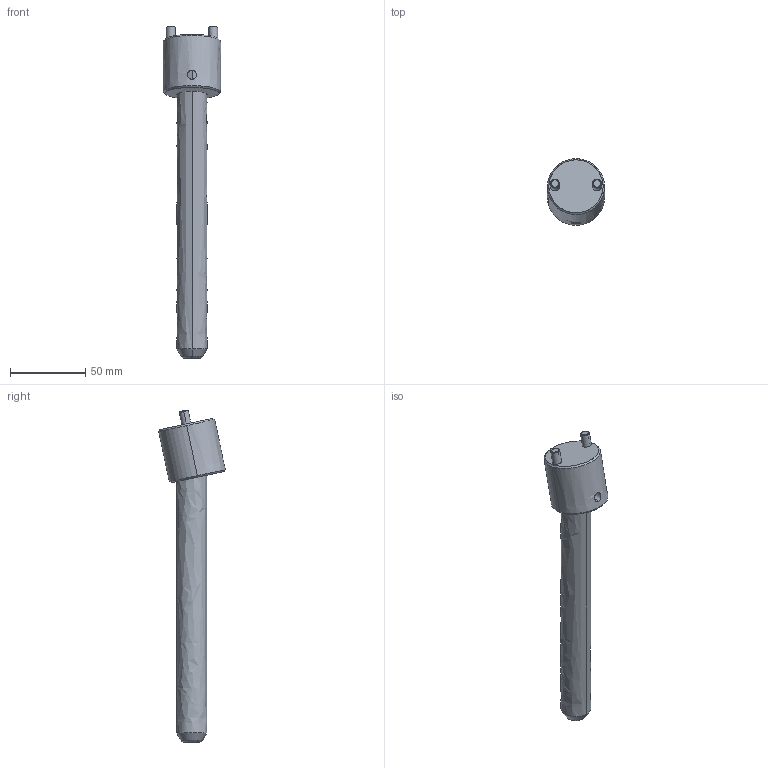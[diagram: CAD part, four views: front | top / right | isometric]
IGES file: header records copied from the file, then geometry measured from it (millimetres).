
Start section: START RECORD GO HERE.
Global section: file name: CI1220175.igs; native system: DASSAULT SYSTEMES CATIA V5 R20 - www.3ds.com; preprocessor: CATIA Version 5 Release 20 ; author: r.borello; organization: CFTORINO; date: 20190621.160708; units: millimetre
Bounding box: 38 x 44.24 x 220.37 mm (x, y, z)
Surface area: 22441 mm2 (no closed solid volume)
Topology: 0 solids, 0 shells, 43 faces, 178 edges, 176 vertices
Faces by surface type: revolution 36, plane 7
